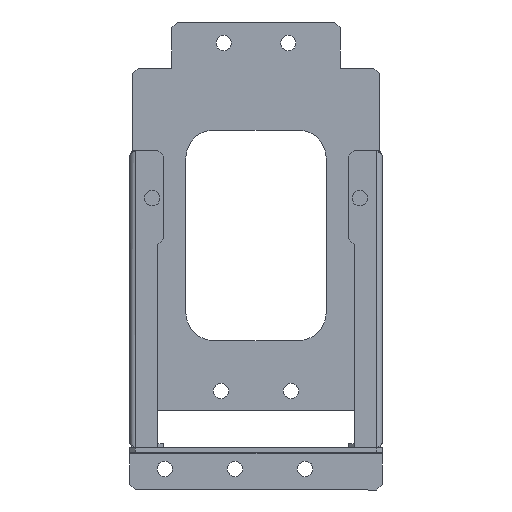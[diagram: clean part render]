
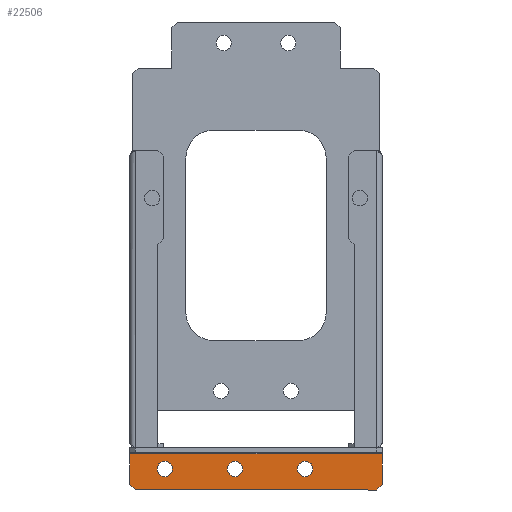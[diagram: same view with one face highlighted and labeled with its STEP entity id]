
A CAD part, left-side view. The second image highlights one B-rep face of the part: STEP entity #22506.
In plain terms, the highlighted planar face has unit normal (-1, 0, 0) as drawn and (1, 0, 0) by its records, which use the part's own axes.
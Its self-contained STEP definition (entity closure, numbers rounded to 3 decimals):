
#21866=CARTESIAN_POINT(' ',(-97.5,32.5,6.));
#21871=DIRECTION(' ',(-1.,0.,0.));
#21876=DIRECTION(' ',(0.,0.,-1.));
#21881=AXIS2_PLACEMENT_3D(' ',#21866,#21871,#21876);
#21886=CIRCLE('',#21881,2.75);
#21891=CARTESIAN_POINT(' ',(-97.5,32.5,3.25));
#21892=VERTEX_POINT(' ',#21891);
#21896=CARTESIAN_POINT(' ',(-97.5,32.5,8.75));
#21897=VERTEX_POINT(' ',#21896);
#21901=EDGE_CURVE(' ',#21892,#21897,#21886,.T.);
#22031=DIRECTION(' ',(1.,0.,0.));
#22036=CARTESIAN_POINT(' ',(-97.5,-45.,13.5));
#22041=DIRECTION(' ',(0.,0.,-1.));
#22046=AXIS2_PLACEMENT_3D(' ',#22036,#22031,#22041);
#22051=PLANE('NONE',#22046);
#22056=CARTESIAN_POINT(' ',(-97.5,-43.,13.5));
#22061=DIRECTION(' ',(0.,1.,0.));
#22066=VECTOR(' ',#22061,1.);
#22071=LINE('',#22056,#22066);
#22076=CARTESIAN_POINT(' ',(-97.5,-43.,13.5));
#22077=VERTEX_POINT(' ',#22076);
#22081=CARTESIAN_POINT(' ',(-97.5,43.,13.5));
#22082=VERTEX_POINT(' ',#22081);
#22086=EDGE_CURVE(' ',#22077,#22082,#22071,.T.);
#22091=ORIENTED_EDGE(' ',*,*,#22086,.F.);
#22096=CARTESIAN_POINT(' ',(-97.5,-43.,13.5));
#22101=DIRECTION(' ',(0.,-0.707,-0.707));
#22106=VECTOR(' ',#22101,1.);
#22111=LINE('',#22096,#22106);
#22116=CARTESIAN_POINT(' ',(-97.5,-45.,11.5));
#22117=VERTEX_POINT(' ',#22116);
#22121=EDGE_CURVE(' ',#22077,#22117,#22111,.T.);
#22126=ORIENTED_EDGE(' ',*,*,#22121,.T.);
#22131=CARTESIAN_POINT(' ',(-97.5,-45.,0.6));
#22136=DIRECTION(' ',(0.,0.,1.));
#22141=VECTOR(' ',#22136,1.);
#22146=LINE('',#22131,#22141);
#22151=CARTESIAN_POINT(' ',(-97.5,-45.,0.6));
#22152=VERTEX_POINT(' ',#22151);
#22156=EDGE_CURVE(' ',#22152,#22117,#22146,.T.);
#22161=ORIENTED_EDGE(' ',*,*,#22156,.F.);
#22166=CARTESIAN_POINT(' ',(-97.5,45.,0.6));
#22171=DIRECTION(' ',(0.,-1.,0.));
#22176=VECTOR(' ',#22171,1.);
#22181=LINE('',#22166,#22176);
#22186=CARTESIAN_POINT(' ',(-97.5,45.,0.6));
#22187=VERTEX_POINT(' ',#22186);
#22191=EDGE_CURVE(' ',#22187,#22152,#22181,.T.);
#22196=ORIENTED_EDGE(' ',*,*,#22191,.F.);
#22201=CARTESIAN_POINT(' ',(-97.5,45.,11.5));
#22206=DIRECTION(' ',(0.,0.,-1.));
#22211=VECTOR(' ',#22206,1.);
#22216=LINE('',#22201,#22211);
#22221=CARTESIAN_POINT(' ',(-97.5,45.,11.5));
#22222=VERTEX_POINT(' ',#22221);
#22226=EDGE_CURVE(' ',#22222,#22187,#22216,.T.);
#22231=ORIENTED_EDGE(' ',*,*,#22226,.F.);
#22236=CARTESIAN_POINT(' ',(-97.5,45.,11.5));
#22241=DIRECTION(' ',(0.,-0.707,0.707));
#22246=VECTOR(' ',#22241,1.);
#22251=LINE('',#22236,#22246);
#22256=EDGE_CURVE(' ',#22222,#22082,#22251,.T.);
#22261=ORIENTED_EDGE(' ',*,*,#22256,.T.);
#22266=EDGE_LOOP(' ',(#22091,#22126,#22161,#22196,#22231,#22261));
#22271=FACE_OUTER_BOUND(' ',#22266,.T.);
#22276=CARTESIAN_POINT(' ',(-97.5,32.5,6.));
#22281=DIRECTION(' ',(-1.,0.,0.));
#22286=DIRECTION(' ',(0.,0.,1.));
#22291=AXIS2_PLACEMENT_3D(' ',#22276,#22281,#22286);
#22296=CIRCLE('',#22291,2.75);
#22301=EDGE_CURVE(' ',#21897,#21892,#22296,.T.);
#22306=ORIENTED_EDGE(' ',*,*,#22301,.T.);
#22311=ORIENTED_EDGE(' ',*,*,#21901,.T.);
#22316=EDGE_LOOP(' ',(#22306,#22311));
#22321=FACE_BOUND(' ',#22316,.T.);
#22326=CARTESIAN_POINT(' ',(-97.5,-17.5,6.));
#22331=DIRECTION(' ',(-1.,0.,0.));
#22336=DIRECTION(' ',(0.,0.,1.));
#22341=AXIS2_PLACEMENT_3D(' ',#22326,#22331,#22336);
#22346=CIRCLE('',#22341,2.75);
#22351=CARTESIAN_POINT(' ',(-97.5,-17.5,8.75));
#22352=VERTEX_POINT(' ',#22351);
#22356=CARTESIAN_POINT(' ',(-97.5,-17.5,3.25));
#22357=VERTEX_POINT(' ',#22356);
#22361=EDGE_CURVE(' ',#22352,#22357,#22346,.T.);
#22366=ORIENTED_EDGE(' ',*,*,#22361,.T.);
#22371=CARTESIAN_POINT(' ',(-97.5,-17.5,6.));
#22376=DIRECTION(' ',(-1.,0.,0.));
#22381=DIRECTION(' ',(0.,0.,-1.));
#22386=AXIS2_PLACEMENT_3D(' ',#22371,#22376,#22381);
#22391=CIRCLE('',#22386,2.75);
#22396=EDGE_CURVE(' ',#22357,#22352,#22391,.T.);
#22401=ORIENTED_EDGE(' ',*,*,#22396,.T.);
#22406=EDGE_LOOP(' ',(#22366,#22401));
#22411=FACE_BOUND(' ',#22406,.T.);
#22416=CARTESIAN_POINT(' ',(-97.5,7.5,6.));
#22421=DIRECTION(' ',(1.,0.,0.));
#22426=DIRECTION(' ',(0.,0.,-1.));
#22431=AXIS2_PLACEMENT_3D(' ',#22416,#22421,#22426);
#22436=CIRCLE('',#22431,2.75);
#22441=CARTESIAN_POINT(' ',(-97.5,7.5,3.25));
#22442=VERTEX_POINT(' ',#22441);
#22446=CARTESIAN_POINT(' ',(-97.5,7.5,8.75));
#22447=VERTEX_POINT(' ',#22446);
#22451=EDGE_CURVE(' ',#22442,#22447,#22436,.T.);
#22456=ORIENTED_EDGE(' ',*,*,#22451,.F.);
#22461=CARTESIAN_POINT(' ',(-97.5,7.5,6.));
#22466=DIRECTION(' ',(1.,0.,0.));
#22471=DIRECTION(' ',(0.,0.,1.));
#22476=AXIS2_PLACEMENT_3D(' ',#22461,#22466,#22471);
#22481=CIRCLE('',#22476,2.75);
#22486=EDGE_CURVE(' ',#22447,#22442,#22481,.T.);
#22491=ORIENTED_EDGE(' ',*,*,#22486,.F.);
#22496=EDGE_LOOP(' ',(#22456,#22491));
#22501=FACE_BOUND(' ',#22496,.T.);
#22506=ADVANCED_FACE('NONE',(#22271,#22321,#22411,#22501),#22051,.T.);
